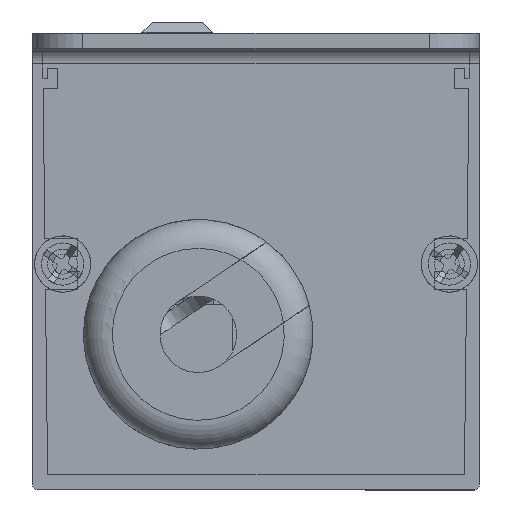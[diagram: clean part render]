
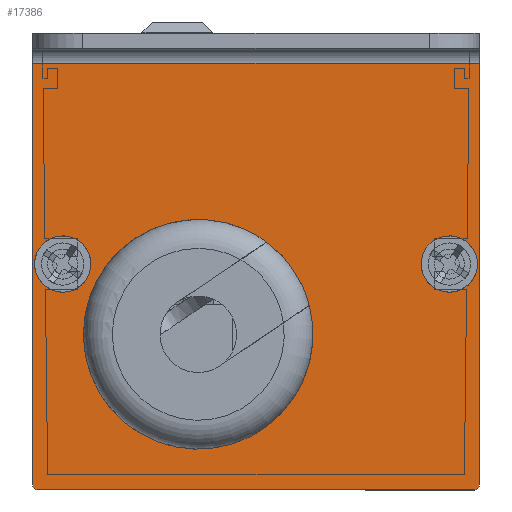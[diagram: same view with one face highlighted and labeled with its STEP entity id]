
A CAD part, left-side view. The second image highlights one B-rep face of the part: STEP entity #17386.
In plain terms, the highlighted planar face has unit normal (-1, 0, 0).
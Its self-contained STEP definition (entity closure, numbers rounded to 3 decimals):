
#17386=ADVANCED_FACE('',(#41972,#41974,#41976,#41978),#41980,.F.);
#41972=FACE_BOUND('',#41973,.T.);
#41973=EDGE_LOOP('',(#63648,#63649,#63650,#63651,#63652,#63653));
#41974=FACE_BOUND('',#41975,.T.);
#41975=EDGE_LOOP('',(#63654,#63655,#63656,#63657));
#41976=FACE_BOUND('',#41977,.T.);
#41977=EDGE_LOOP('',(#63658));
#41978=FACE_BOUND('',#41979,.T.);
#41979=EDGE_LOOP('',(#63659));
#41980=PLANE('',#41981);
#41981=AXIS2_PLACEMENT_3D('',#41982,#41983,#41984);
#41982=CARTESIAN_POINT('',(0.,0.,0.));
#41983=DIRECTION('',(1.,0.,0.));
#41984=DIRECTION('',(0.,1.,0.));
#63648=ORIENTED_EDGE('',*,*,#76045,.F.);
#63649=ORIENTED_EDGE('',*,*,#76046,.F.);
#63650=ORIENTED_EDGE('',*,*,#76047,.T.);
#63651=ORIENTED_EDGE('',*,*,#76048,.F.);
#63652=ORIENTED_EDGE('',*,*,#76049,.F.);
#63653=ORIENTED_EDGE('',*,*,#76050,.F.);
#63654=ORIENTED_EDGE('',*,*,#76051,.T.);
#63655=ORIENTED_EDGE('',*,*,#76052,.T.);
#63656=ORIENTED_EDGE('',*,*,#76053,.T.);
#63657=ORIENTED_EDGE('',*,*,#76054,.T.);
#63658=ORIENTED_EDGE('',*,*,#76055,.T.);
#63659=ORIENTED_EDGE('',*,*,#76056,.T.);
#76045=EDGE_CURVE('',#87870,#87871,#87872,.F.);
#76046=EDGE_CURVE('',#87873,#87870,#87874,.T.);
#76047=EDGE_CURVE('',#87873,#87875,#87876,.T.);
#76048=EDGE_CURVE('',#87877,#87875,#87878,.T.);
#76049=EDGE_CURVE('',#87879,#87877,#87880,.F.);
#76050=EDGE_CURVE('',#87871,#87879,#87881,.T.);
#76051=EDGE_CURVE('',#87882,#87883,#87884,.F.);
#76052=EDGE_CURVE('',#87883,#87885,#87886,.T.);
#76053=EDGE_CURVE('',#87885,#87887,#87888,.F.);
#76054=EDGE_CURVE('',#87887,#87882,#87889,.T.);
#76055=EDGE_CURVE('',#87890,#87890,#87891,.T.);
#76056=EDGE_CURVE('',#87892,#87892,#87893,.T.);
#87870=VERTEX_POINT('',#114029);
#87871=VERTEX_POINT('',#114030);
#87872=CIRCLE('',#114031,0.5);
#87873=VERTEX_POINT('',#114035);
#87874=LINE('',#114036,#114037);
#87875=VERTEX_POINT('',#114039);
#87876=LINE('',#114040,#114041);
#87877=VERTEX_POINT('',#114043);
#87878=LINE('',#114044,#114045);
#87879=VERTEX_POINT('',#114047);
#87880=CIRCLE('',#114048,0.5);
#87881=LINE('',#114052,#114053);
#87882=VERTEX_POINT('',#114055);
#87883=VERTEX_POINT('',#114056);
#87884=LINE('',#114057,#114058);
#87885=VERTEX_POINT('',#114060);
#87886=CIRCLE('',#114061,8.);
#87887=VERTEX_POINT('',#114065);
#87888=LINE('',#114066,#114067);
#87889=CIRCLE('',#114069,8.);
#87890=VERTEX_POINT('',#114073);
#87891=CIRCLE('',#114074,2.1);
#87892=VERTEX_POINT('',#114078);
#87893=CIRCLE('',#114079,2.1);
#114029=CARTESIAN_POINT('',(0.,-22.25,22.25));
#114030=CARTESIAN_POINT('',(0.,-22.75,21.75));
#114031=AXIS2_PLACEMENT_3D('',#114032,#114033,#114034);
#114032=CARTESIAN_POINT('',(0.,-22.25,21.75));
#114033=DIRECTION('',(-1.,0.,0.));
#114034=DIRECTION('',(0.,-1.,0.));
#114035=CARTESIAN_POINT('',(0.,19.75,22.25));
#114036=CARTESIAN_POINT('',(0.,19.75,22.25));
#114037=VECTOR('',#114038,1.);
#114038=DIRECTION('',(0.,-1.,0.));
#114039=CARTESIAN_POINT('',(0.,19.75,-22.25));
#114040=CARTESIAN_POINT('',(0.,19.75,22.25));
#114041=VECTOR('',#114042,1.);
#114042=DIRECTION('',(0.,0.,-1.));
#114043=CARTESIAN_POINT('',(0.,-22.25,-22.25));
#114044=CARTESIAN_POINT('',(0.,-22.25,-22.25));
#114045=VECTOR('',#114046,1.);
#114046=DIRECTION('',(0.,1.,0.));
#114047=CARTESIAN_POINT('',(0.,-22.75,-21.75));
#114048=AXIS2_PLACEMENT_3D('',#114049,#114050,#114051);
#114049=CARTESIAN_POINT('',(0.,-22.25,-21.75));
#114050=DIRECTION('',(-1.,0.,0.));
#114051=DIRECTION('',(0.,0.,-1.));
#114052=CARTESIAN_POINT('',(0.,-22.75,21.75));
#114053=VECTOR('',#114054,1.);
#114054=DIRECTION('',(0.,0.,-1.));
#114055=CARTESIAN_POINT('',(0.,-3.377,1.25));
#114056=CARTESIAN_POINT('',(0.,-11.123,1.25));
#114057=CARTESIAN_POINT('',(0.,-11.123,1.25));
#114058=VECTOR('',#114059,1.);
#114059=DIRECTION('',(0.,1.,0.));
#114060=CARTESIAN_POINT('',(0.,-11.123,-12.75));
#114061=AXIS2_PLACEMENT_3D('',#114062,#114063,#114064);
#114062=CARTESIAN_POINT('',(0.,-7.25,-5.75));
#114063=DIRECTION('',(1.,0.,0.));
#114064=DIRECTION('',(0.,-0.484,0.875));
#114065=CARTESIAN_POINT('',(0.,-3.377,-12.75));
#114066=CARTESIAN_POINT('',(0.,-3.377,-12.75));
#114067=VECTOR('',#114068,1.);
#114068=DIRECTION('',(0.,-1.,0.));
#114069=AXIS2_PLACEMENT_3D('',#114070,#114071,#114072);
#114070=CARTESIAN_POINT('',(0.,-7.25,-5.75));
#114071=DIRECTION('',(1.,0.,0.));
#114072=DIRECTION('',(0.,0.484,-0.875));
#114073=CARTESIAN_POINT('',(0.,1.85,19.25));
#114074=AXIS2_PLACEMENT_3D('',#114075,#114076,#114077);
#114075=CARTESIAN_POINT('',(0.,-0.25,19.25));
#114076=DIRECTION('',(1.,0.,0.));
#114077=DIRECTION('',(0.,1.,0.));
#114078=CARTESIAN_POINT('',(0.,1.85,-19.25));
#114079=AXIS2_PLACEMENT_3D('',#114080,#114081,#114082);
#114080=CARTESIAN_POINT('',(0.,-0.25,-19.25));
#114081=DIRECTION('',(1.,0.,0.));
#114082=DIRECTION('',(0.,1.,0.));
